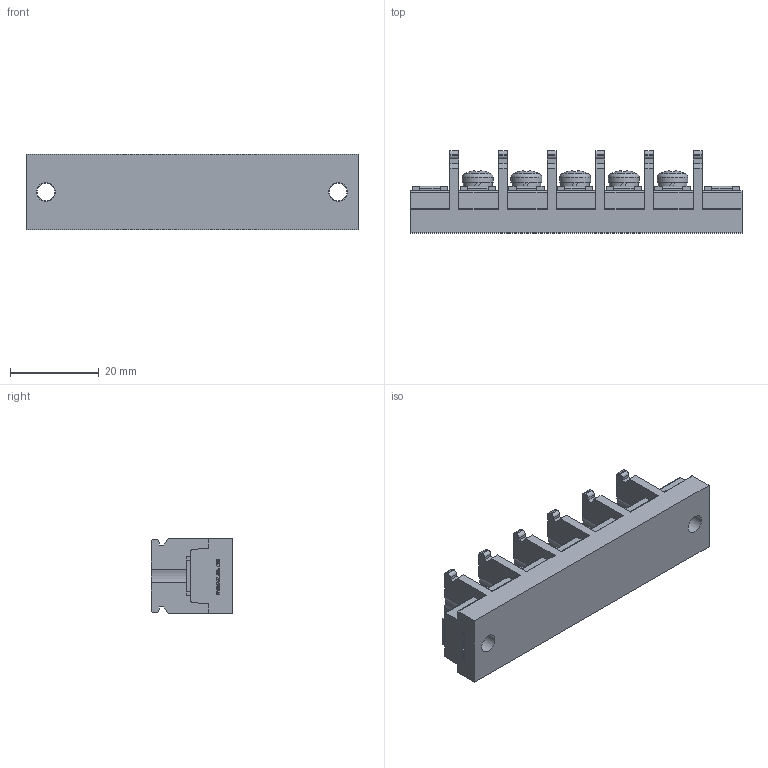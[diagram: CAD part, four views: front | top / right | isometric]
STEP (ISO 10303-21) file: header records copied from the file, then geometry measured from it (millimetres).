
FILE_DESCRIPTION(/* description */ ('Alibre Inc.'),/* implementation_level */ '2;1');
FILE_NAME(/* name */ 'export0',/* time_stamp */ '2015-10-19T19:21:44+09:00',/* author */ (''),/* organization */ (''),/* preprocessor_version */ 'ST-DEVELOPER v14',/* originating_system */ 'Alibre',/* authorisation */ '');
FILE_SCHEMA (('CONFIG_CONTROL_DESIGN'));
Length unit declared in the file: centimetre
Products named in the file (1): ID_1
Bounding box: 75 x 18.5 x 17 mm (x, y, z)
Volume: 13280.8 mm3; surface area: 7495.8 mm2
Topology: 1 solids, 1 shells, 794 faces, 2201 edges, 1463 vertices
Faces by surface type: plane 558, bspline 104, cylinder 97, cone 20, torus 10, sphere 5
Full cylindrical faces by diameter (mm): 4 x7, 4.2 x2, 6.5 x5, 7 x5
Entity records: 24599 total; most frequent: CARTESIAN_POINT 5473, ORIENTED_EDGE 4320, DIRECTION 3052, EDGE_CURVE 2160, VECTOR 1558, LINE 1558, VERTEX_POINT 1446, AXIS2_PLACEMENT_3D 1021
